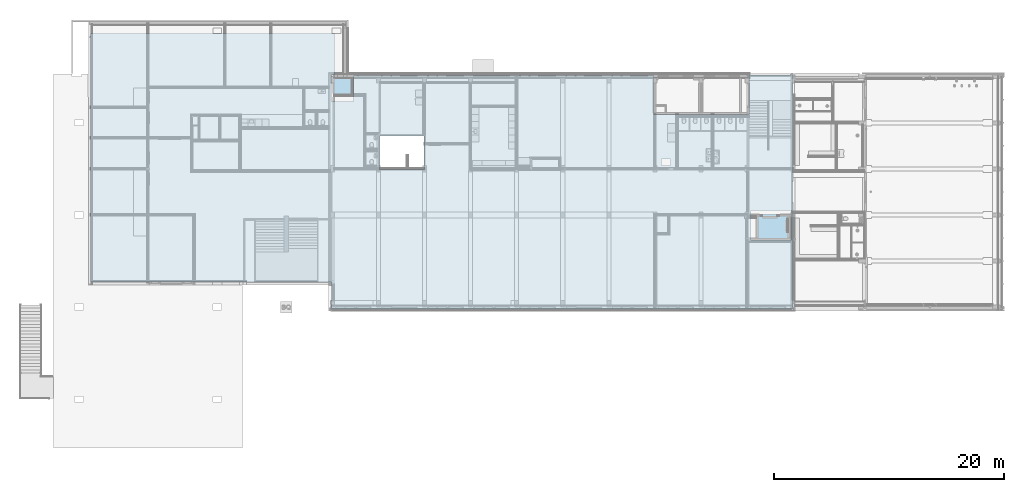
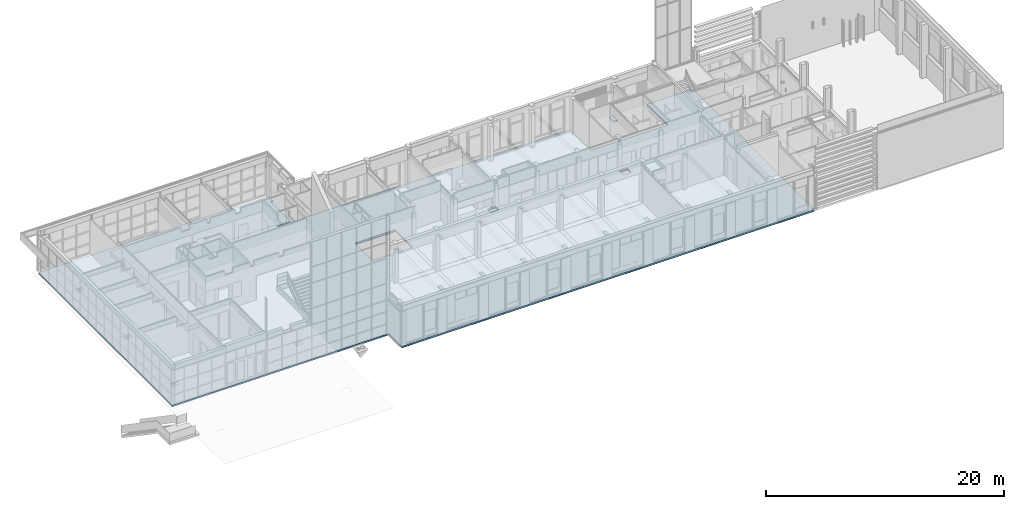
# One storey, part 14 of 109: 2 slabs, 3 openings.
"""IFC2X3 building model written with IfcOpenShell, lengths in millimetres."""

from ifc_helpers import new_model, entity, si_unit, converted_unit, derived_unit, money_unit, direction, frame, origin_with_axes, place, context, subcontext, project, spatial, faceted_brep, material, type_object, element, save


model = new_model("IFC2X3")

# Units and contexts
model_context = context("Model", 3, precision=0.01, world=origin_with_axes(), true_north=direction((0.0, 1.0)))
body_context = subcontext(model_context, "Body", "Model", "MODEL_VIEW")
ifc_project = project(units=[si_unit("LENGTHUNIT", "METRE", prefix="MILLI"), si_unit("AREAUNIT", "SQUARE_METRE"), si_unit("VOLUMEUNIT", "CUBIC_METRE"), converted_unit("PLANEANGLEUNIT", "DEGREE", entity("IfcPlaneAngleMeasure", 0.0174532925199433), si_unit("PLANEANGLEUNIT", "RADIAN"), dimensions=[0, 0, 0, 0, 0, 0, 0]), money_unit("EUR"), converted_unit("TIMEUNIT", "Year", entity("IfcTimeMeasure", 31557600.0), si_unit("TIMEUNIT", "SECOND"), dimensions=[0, 0, 1, 0, 0, 0, 0]), si_unit("MASSUNIT", "GRAM", prefix="KILO"), si_unit("THERMODYNAMICTEMPERATUREUNIT", "DEGREE_CELSIUS"), si_unit("LUMINOUSINTENSITYUNIT", "LUMEN"), si_unit("ENERGYUNIT", "JOULE", prefix="MEGA"), derived_unit("THERMALCONDUCTANCEUNIT", [(si_unit("POWERUNIT", "WATT"), 1), (si_unit("LENGTHUNIT", "METRE"), -1), (si_unit("THERMODYNAMICTEMPERATUREUNIT", "KELVIN"), -1)]), derived_unit("SPECIFICHEATCAPACITYUNIT", [(si_unit("ENERGYUNIT", "JOULE"), 1), (si_unit("MASSUNIT", "GRAM", prefix="KILO"), -1), (si_unit("THERMODYNAMICTEMPERATUREUNIT", "KELVIN"), -1)]), derived_unit("MASSDENSITYUNIT", [(si_unit("MASSUNIT", "GRAM", prefix="KILO"), 1), (si_unit("VOLUMEUNIT", "CUBIC_METRE"), -1)])], contexts=[model_context])

# Site, building, storey
site_placement = place(None, origin_with_axes())
site = spatial("IfcSite", under=ifc_project, at=site_placement, Name="<site naam>", CompositionType="ELEMENT")
building_placement = place(site_placement, origin_with_axes())
building = spatial("IfcBuilding", under=site, at=building_placement, Name="<Naam gebouw>", CompositionType="ELEMENT")
storey_placement = place(building_placement, origin_with_axes())
storey = spatial("IfcBuildingStorey", under=building, at=storey_placement, Name="00 Begane grond", CompositionType="ELEMENT", Elevation=0.0)

# Slab
ifc_material_1 = material(Name="ALG - ISOLATIE")
slab_type_1 = type_object("IfcSlabType", Name="ALG - ISOLATIE 80", PredefinedType="NOTDEFINED")
slab_1_placement = place(storey_placement, frame((-8999.999999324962, 23750.00000000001, -200.0), z_axis=(0.0, 0.0, 1.0), x_axis=(1.0, 0.0, 0.0)))
element("IfcSlab", 1, at=slab_1_placement, inside=storey, type_object=slab_type_1, material=ifc_material_1, Name="23_Vloer_ALG", PredefinedType="NOTDEFINED", context=body_context, shape_type="Brep", body=[
    faceted_brep([(60860.99999932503, -17915.0, -80.00000000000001), (60824.99999932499, -17915.0, -80.00000000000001), (60824.99999932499, -17915.0, 0.0), (60860.99999932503, -17915.0, 0.0), (20934.999999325, -21564.32643177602, -80.00000000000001), (0.0, -21564.32643177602, -80.00000000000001), (0.0, 0.0, -80.00000000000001), (21200.41606311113, 0.0, -80.00000000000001), (21200.41606311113, -3615.000000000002, -80.00000000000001), (20914.99999932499, -3615.000000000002, -80.00000000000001), (20914.99999932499, -5880.000000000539, -80.00000000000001), (22809.999999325, -5880.000000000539, -80.00000000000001), (22809.999999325, -3664.999999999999, -80.00000000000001), (48924.99999932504, -3664.999999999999, -80.00000000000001), (48924.99999932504, -7025.050167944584, -80.00000000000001), (57174.99999932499, -7025.050167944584, -80.00000000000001), (57174.99999932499, -3615.000000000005, -80.00000000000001), (60978.99993801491, -3615.000000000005, -80.00000000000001), (60978.99993801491, -23902.04221732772, -80.00000000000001), (20934.999999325, -23902.04221732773, -80.00000000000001), (28999.98424475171, -11819.63537253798, -80.00000000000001), (28999.98425118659, -8884.977007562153, -80.00000000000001), (25094.99999932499, -8884.4644936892, -80.00000000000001), (25094.99999932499, -11819.63537253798, -80.00000000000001), (50374.99999935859, -10875.0, -80.00000000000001), (49574.99999935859, -10875.0, -80.00000000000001), (49574.99999935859, -11474.99999999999, -80.00000000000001), (50374.99999935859, -11474.99999999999, -80.00000000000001), (57799.99999932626, -17945.00000146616, -80.00000000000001), (60824.99999932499, -17945.00000146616, -80.00000000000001), (60860.99999932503, -15375.00000000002, -80.00000000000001), (57360.99999932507, -15375.00000000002, -80.00000000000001), (57360.99999932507, -17915.0, -80.00000000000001), (57799.99999932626, -17915.0, -80.00000000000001), (60824.99999932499, -17945.00000146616, 0.0), (21200.41606311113, -3615.000000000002, 0.0), (21200.41606311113, 0.0, 0.0), (0.0, 0.0, 0.0), (0.0, -21564.32643177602, 0.0), (20934.999999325, -21564.32643177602, 0.0), (20934.999999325, -23902.04221732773, 0.0), (60978.99993801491, -23902.04221732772, 0.0), (60978.99993801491, -3615.000000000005, 0.0), (57174.99999932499, -3615.000000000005, 0.0), (57174.99999932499, -7025.050167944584, 0.0), (48924.99999932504, -7025.050167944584, 0.0), (48924.99999932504, -3664.999999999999, 0.0), (22809.999999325, -3664.999999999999, 0.0), (22809.999999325, -5880.000000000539, 0.0), (20914.99999932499, -5880.000000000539, 0.0), (20914.99999932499, -3615.000000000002, 0.0), (28999.98424475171, -11819.63537253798, 0.0), (25094.99999932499, -11819.63537253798, 0.0), (25094.99999932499, -8884.4644936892, 0.0), (28999.98425118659, -8884.977007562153, 0.0), (50374.99999935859, -10875.0, 0.0), (50374.99999935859, -11474.99999999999, 0.0), (49574.99999935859, -11474.99999999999, 0.0), (49574.99999935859, -10875.0, 0.0), (57799.99999932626, -17945.00000146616, 0.0), (57799.99999932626, -17915.0, 0.0), (57360.99999932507, -17915.0, 0.0), (57360.99999932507, -15375.00000000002, 0.0), (60860.99999932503, -15375.00000000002, 0.0)], [[[0, 1, 2, 3]], [[4, 5, 6, 7, 8, 9, 10, 11, 12, 13, 14, 15, 16, 17, 18, 19], [20, 21, 22, 23], [24, 25, 26, 27], [28, 29, 1, 0, 30, 31, 32, 33]], [[29, 34, 2, 1]], [[35, 36, 37, 38, 39, 40, 41, 42, 43, 44, 45, 46, 47, 48, 49, 50], [51, 52, 53, 54], [55, 56, 57, 58], [2, 34, 59, 60, 61, 62, 63, 3]], [[3, 63, 30, 0]], [[39, 38, 5, 4]], [[38, 37, 6, 5]], [[37, 36, 7, 6]], [[36, 35, 8, 7]], [[35, 50, 9, 8]], [[50, 49, 10, 9]], [[49, 48, 11, 10]], [[48, 47, 12, 11]], [[47, 46, 13, 12]], [[46, 45, 14, 13]], [[45, 44, 15, 14]], [[44, 43, 16, 15]], [[43, 42, 17, 16]], [[42, 41, 18, 17]], [[41, 40, 19, 18]], [[40, 39, 4, 19]], [[51, 54, 21, 20]], [[54, 53, 22, 21]], [[53, 52, 23, 22]], [[52, 51, 20, 23]], [[55, 58, 25, 24]], [[58, 57, 26, 25]], [[57, 56, 27, 26]], [[56, 55, 24, 27]], [[59, 34, 29, 28]], [[63, 62, 31, 30]], [[62, 61, 32, 31]], [[61, 60, 33, 32]], [[28, 33, 60, 59]]]),
])

# Slab, openings
ifc_material_2 = material(Name="beton_gewapend_vloer C")
slab_type_2 = type_object("IfcSlabType", Name="beton_gewapend_vloer C  150", PredefinedType="NOTDEFINED")
slab_2_placement = place(storey_placement, frame((-9154.999999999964, 24449.99999999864, -50.00000000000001), z_axis=(0.0, 0.0, 1.0), x_axis=(1.0, 0.0, 0.0)))
slab_2 = element("IfcSlab", 2, at=slab_2_placement, inside=storey, type_object=slab_type_2, material=ifc_material_2, Name="23_Vloer_beton_gewapend_vloer", PredefinedType="NOTDEFINED", context=body_context, shape_type="Brep", body=[
    faceted_brep([(0.0, 0.0, 0.0), (0.0, 0.0, -150.0), (0.0, -22524.99359622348, -150.0), (0.0, -22524.99359622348, 0.0), (22329.99999671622, 2.260094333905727e-07, 0.0), (22329.99999671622, 2.260094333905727e-07, -150.0), (22330.00000020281, -749.9999990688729, -150.0), (22130.00000000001, -749.9999999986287, -150.0), (22130.00001057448, -4114.993437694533, -150.0), (20769.99999903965, -4114.993437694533, -150.0), (20769.99999903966, -4224.993437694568, -150.0), (60929.99999903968, -4224.993437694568, -150.0), (60929.99999903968, -4449.993437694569, -150.0), (61140.00000000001, -4449.993437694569, -150.0), (61140.00000000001, -24449.99343769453, -150.0), (60969.99999903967, -24449.99343769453, -150.0), (60969.99999903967, -24674.99343769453, -150.0), (21039.99999903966, -24674.99343769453, -150.0), (21039.99999903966, -22519.99343769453, -150.0), (10230.04446719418, -22519.99343769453, -150.0), (10230.04446719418, -22524.99359622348, -150.0), (25199.99999903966, -9584.457931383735, -150.0), (25199.99999903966, -12519.62881023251, -150.0), (29104.98424446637, -12519.62881023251, -150.0), (29104.98425090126, -9584.970445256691, -150.0), (10230.04446719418, -22524.99359622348, 0.0), (10230.04446719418, -22519.99343769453, 0.0), (21039.99999903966, -22519.99343769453, 0.0), (21039.99999903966, -24674.99343769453, 0.0), (60969.99999903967, -24674.99343769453, 0.0), (60969.99999903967, -24449.99343769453, 0.0), (61140.00000000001, -24449.99343769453, 0.0), (61140.00000000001, -4449.993437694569, 0.0), (60929.99999903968, -4449.993437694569, 0.0), (60929.99999903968, -4224.993437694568, 0.0), (20769.99999903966, -4224.993437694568, 0.0), (20769.99999903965, -4114.993437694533, 0.0), (22130.00001057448, -4114.993437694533, 0.0), (22130.00000000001, -749.9999999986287, 0.0), (22330.00000020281, -749.9999990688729, 0.0), (29104.98424446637, -12519.62881023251, 0.0), (25199.99999903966, -12519.62881023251, 0.0), (25199.99999903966, -9584.457931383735, 0.0), (29104.98425090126, -9584.970445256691, 0.0)], [[[0, 1, 2, 3]], [[4, 5, 1, 0]], [[1, 5, 6, 7, 8, 9, 10, 11, 12, 13, 14, 15, 16, 17, 18, 19, 20, 2], [21, 22, 23, 24]], [[3, 2, 20, 25]], [[4, 0, 3, 25, 26, 27, 28, 29, 30, 31, 32, 33, 34, 35, 36, 37, 38, 39], [40, 41, 42, 43]], [[39, 6, 5, 4]], [[38, 7, 6, 39]], [[37, 8, 7, 38]], [[36, 9, 8, 37]], [[35, 10, 9, 36]], [[34, 11, 10, 35]], [[33, 12, 11, 34]], [[32, 13, 12, 33]], [[31, 14, 13, 32]], [[30, 15, 14, 31]], [[29, 16, 15, 30]], [[28, 17, 16, 29]], [[27, 18, 17, 28]], [[26, 19, 18, 27]], [[25, 20, 19, 26]], [[41, 22, 21, 42]], [[40, 23, 22, 41]], [[43, 24, 23, 40]], [[42, 21, 24, 43]]]),
])
opening_1_placement = place(slab_2_placement, frame((9154.999999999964, -24449.99999999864, 50.00000000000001), z_axis=(0.0, 0.0, 1.0), x_axis=(1.0, 0.0, 0.0)))
element("IfcOpeningElement", 3, at=opening_1_placement, cuts=slab_2, Name="23_Opening_", context=body_context, shape_type="Brep", body=[
    faceted_brep([(40075.00000000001, 16724.94986239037, 100.0), (40075.00000000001, 20224.99995773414, 100.0), (40075.00000000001, 20224.99995773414, -350.0000000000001), (40075.00000000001, 16724.94986239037, -350.0000000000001), (47512.88438913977, 16724.94986239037, 100.0), (47512.88438913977, 20224.99995773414, 100.0), (44174.99995291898, 20224.99995773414, 100.0), (44174.99995291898, 19450.00002820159, 100.0), (43825.00000000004, 19450.00002820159, 100.0), (43825.00000000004, 20224.99995773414, 100.0), (43825.00000000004, 20224.99995773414, -350.0000000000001), (43825.00000000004, 19450.00002820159, -350.0000000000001), (44174.99995291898, 19450.00002820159, -350.0000000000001), (44174.99995291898, 20224.99995773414, -350.0000000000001), (47512.88438913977, 20224.99995773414, -350.0000000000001), (47512.88438913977, 16724.94986239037, -350.0000000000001)], [[[0, 1, 2, 3]], [[0, 4, 5, 6, 7, 8, 9, 1]], [[1, 9, 10, 2]], [[3, 2, 10, 11, 12, 13, 14, 15]], [[4, 0, 3, 15]], [[5, 4, 15, 14]], [[6, 5, 14, 13]], [[7, 6, 13, 12]], [[8, 7, 12, 11]], [[9, 8, 11, 10]]]),
])
opening_2_placement = place(slab_2_placement, frame((9154.999999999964, -24449.99999999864, 50.00000000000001), z_axis=(0.0, 0.0, 1.0), x_axis=(1.0, 0.0, 0.0)))
element("IfcOpeningElement", 4, at=opening_2_placement, cuts=slab_2, Name="23_vloerluik_", context=body_context, shape_type="Brep", body=[
    faceted_brep([(40575.00000003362, 12275.00656230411, 100.0), (40575.00000003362, 12875.00656230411, 100.0), (40575.00000003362, 12875.00656230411, -350.0000000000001), (40575.00000003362, 12275.00656230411, -350.0000000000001), (41375.00000003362, 12275.00656230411, 100.0), (41375.00000003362, 12875.00656230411, 100.0), (41375.00000003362, 12875.00656230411, -350.0000000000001), (41375.00000003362, 12275.00656230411, -350.0000000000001)], [[[0, 1, 2, 3]], [[0, 4, 5, 1]], [[1, 5, 6, 2]], [[3, 2, 6, 7]], [[4, 0, 3, 7]], [[5, 4, 7, 6]]]),
])
opening_3_placement = place(slab_2_placement, frame((9154.999999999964, -24449.99999999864, 50.00000000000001), z_axis=(0.0, 0.0, 1.0), x_axis=(1.0, 0.0, 0.0)))
element("IfcOpeningElement", 5, at=opening_3_placement, cuts=slab_2, Name="23_vloerluik_", context=body_context, shape_type="Brep", body=[
    faceted_brep([(28175.00000000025, 13069.24969002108, 100.0), (28175.00000000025, 13629.24969002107, 100.0), (28175.00000000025, 13629.24969002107, -350.0000000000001), (28175.00000000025, 13069.24969002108, -350.0000000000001), (28975.00000000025, 13069.24969002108, 100.0), (28975.00000000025, 13629.24969002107, 100.0), (28975.00000000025, 13629.24969002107, -350.0000000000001), (28975.00000000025, 13069.24969002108, -350.0000000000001)], [[[0, 1, 2, 3]], [[0, 4, 5, 1]], [[1, 5, 6, 2]], [[3, 2, 6, 7]], [[4, 0, 3, 7]], [[5, 4, 7, 6]]]),
])

save(model, "model.ifc")
